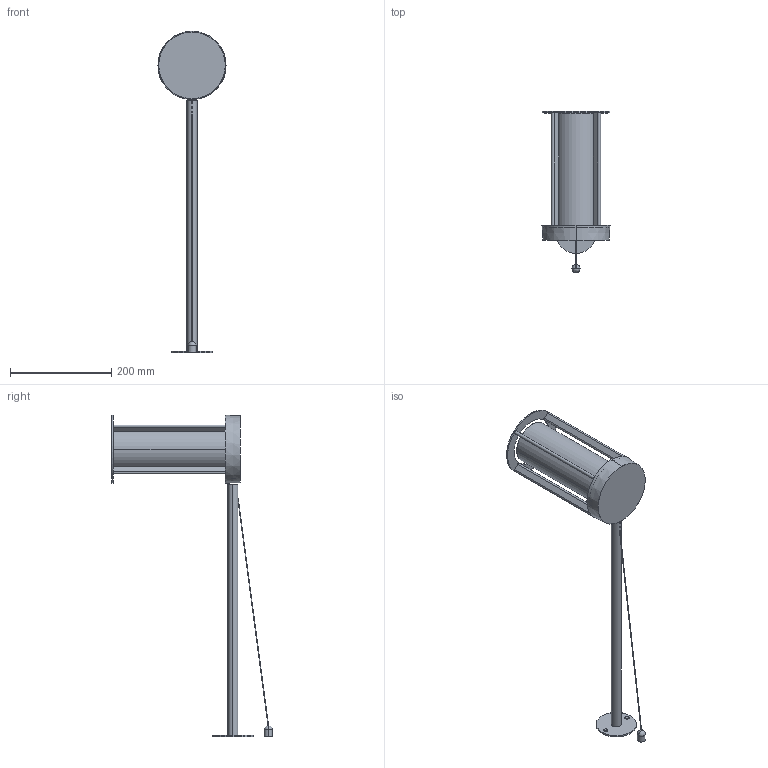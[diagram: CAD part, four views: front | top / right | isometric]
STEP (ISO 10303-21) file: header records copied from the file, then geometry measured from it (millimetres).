
FILE_DESCRIPTION((''),'2;1');
FILE_NAME('DISTANZIATORE-PARETE_SW0001','2025-07-24T09:07:32',('Piccioli'),(''),'CREO PARAMETRIC BY PTC INC, 2025010','CREO PARAMETRIC BY PTC INC, 2025010','');
FILE_SCHEMA(('CONFIG_CONTROL_DESIGN'));
Length unit declared in the file: millimetre
Products named in the file (1): DISTANZIATORE-PARETE_SW0001
Bounding box: 135 x 318 x 636.5 mm (x, y, z)
Surface area: 226605.7 mm2 (no closed solid volume)
Topology: 0 solids, 27 shells, 83 faces, 594 edges, 532 vertices
Faces by surface type: plane 35, cylinder 20, cone 18, torus 8, sphere 2
Entity records: 8317 total; most frequent: CARTESIAN_POINT 4369, ORIENTED_EDGE 693, DIRECTION 633, EDGE_CURVE 594, VERTEX_POINT 532, B_SPLINE_CURVE_WITH_KNOTS 266, AXIS2_PLACEMENT_3D 222, VECTOR 189
